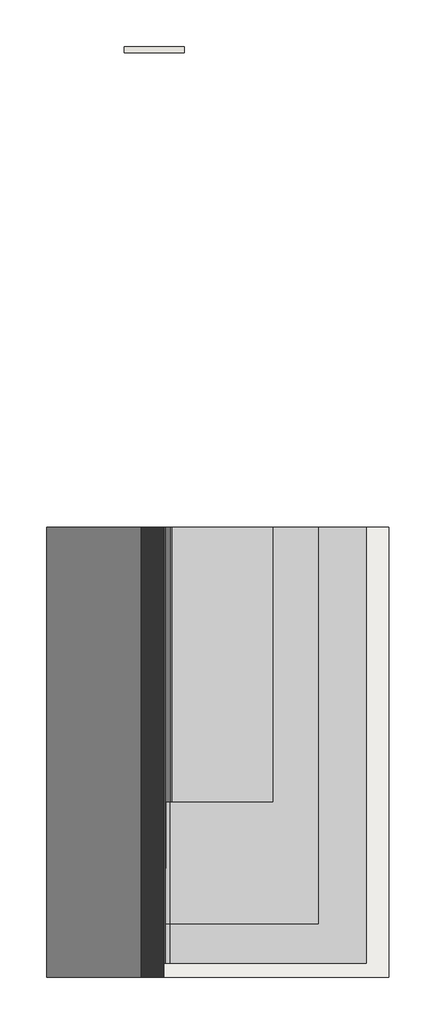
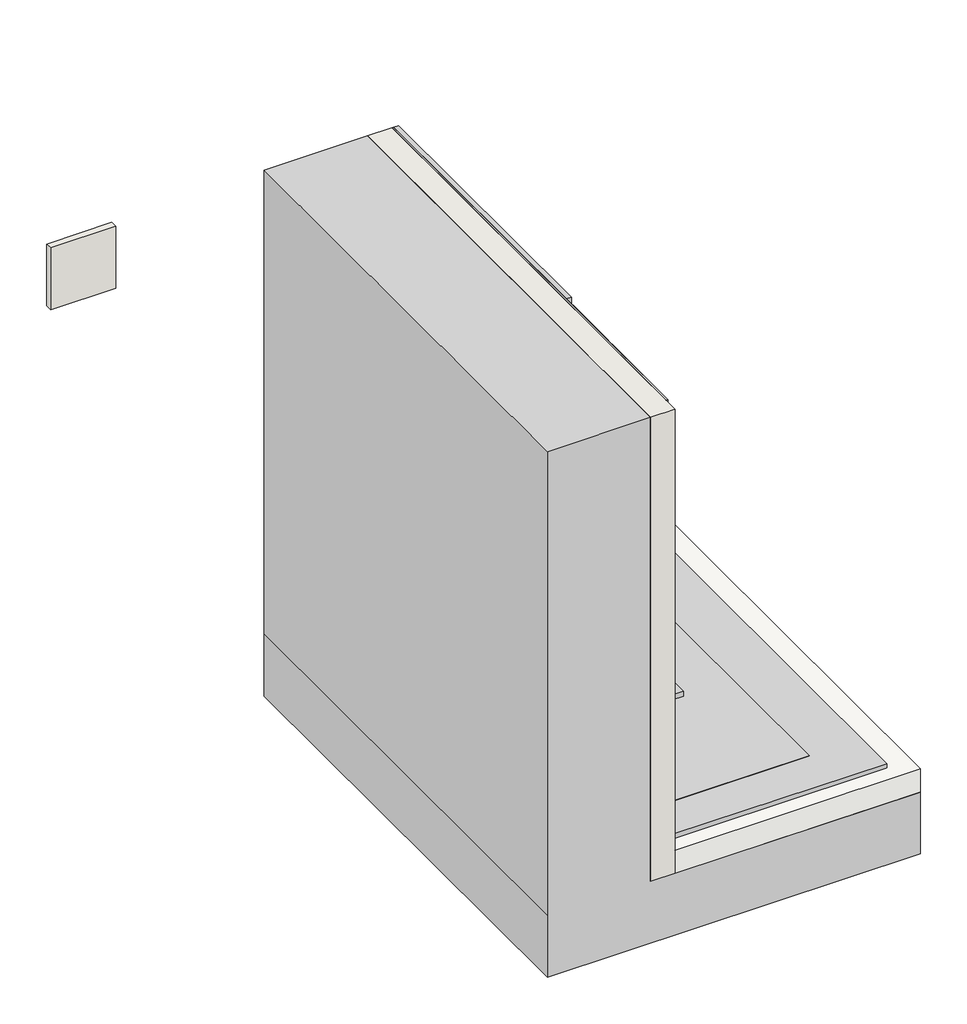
# One storey: 2 walls, 1 proxy, 1 slab.
"""IFC4 building model written with IfcOpenShell, lengths in millimetres."""

from ifc_helpers import new_model, si_unit, frame, origin, place, context, project, spatial, polyline, outline, extrude, transform, mapped, element, save
from components import generic_models_8491444a

model = new_model("IFC4")

# Units and contexts
model_context = context("Model", 3, world=origin())
ifc_project = project(units=[si_unit("LENGTHUNIT", "METRE", prefix="MILLI")], contexts=[model_context])

# Site, building, storey
site = spatial("IfcSite", under=ifc_project)
building = spatial("IfcBuilding", under=site)
storey = spatial("IfcBuildingStorey", under=building, Name="ARQ Térreo", Elevation=-2.523798)

# Proxy
placement = place(None, origin())
generic_models_shape = generic_models_8491444a(model_context)
element("IfcBuildingElementProxy", 1, Name="IMPER:IMPER:433934 : IMPER:IMPER:433934", ObjectType="IMPER:IMPER:433934 : IMPER:IMPER:433934", at=placement, inside=storey, context=model_context, shape_type="MappedRepresentation", body=[
    mapped(generic_models_shape, transform((0.0, 0.0, 0.0), x_axis=(1.0, 0.0, 0.0), y_axis=(0.0, 1.0, 0.0), z_axis=(0.0, 0.0, 1.0))),
])

# Slab
element("IfcSlab", 2, ObjectType="Genérico 150 mm", at=placement, inside=storey, context=model_context, shape_type="SweptSolid", body=[
    extrude(outline(polyline([(-351.9704105, 145.8700195), (1148.0295895, 145.8700195), (1148.0295895, -2854.1299805), (-351.9704105, -2854.1299805), (-351.9704105, 145.8700195)])), frame((0.0, 0.0, -2.523798), z_axis=(0.0, 0.0, 1.0), x_axis=(1.0, 0.0, 0.0)), (0.0, 0.0, 1.0), 150.0),
])

# Walls
element("IfcWall", 3, ObjectType="Parede básica:Parede Concreto", at=placement, inside=storey, context=model_context, shape_type="SweptSolid", body=[
    extrude(outline(polyline([(-501.9704105, -2854.1299805), (-501.9704105, 145.8700195), (-351.9704105, 145.8700195), (-351.9704105, -2854.1299805), (-501.9704105, -2854.1299805)])), frame((0.0, 0.0, -2.523798), z_axis=(0.0, 0.0, 1.0), x_axis=(1.0, 0.0, 0.0)), (0.0, 0.0, 1.0), 3000.0),
])
element("IfcWall", 4, ObjectType="IMPV_VP2000", at=placement, inside=storey, context=model_context, shape_type="SweptSolid", body=[
    extrude(outline(polyline([(-616.4724578, 3346.7665357), (-216.4724578, 3346.7665357), (-216.4724578, 3304.7665357), (-616.4724578, 3304.7665357), (-616.4724578, 3346.7665357)])), frame((0.0, 0.0, -2.523798), z_axis=(0.0, 0.0, 1.0), x_axis=(1.0, 0.0, 0.0)), (0.0, 0.0, 1.0), 400.0),
])

save(model, "model.ifc")
